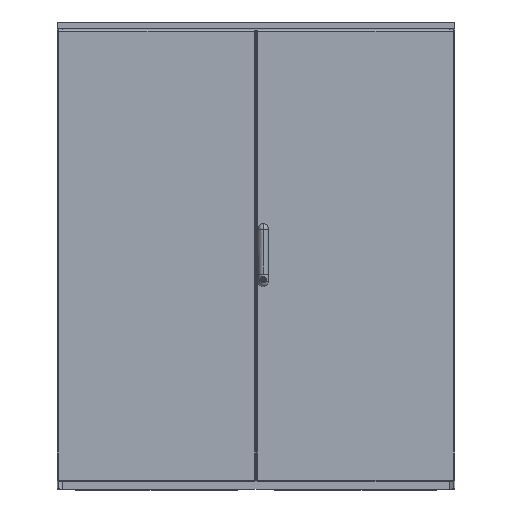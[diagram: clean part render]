
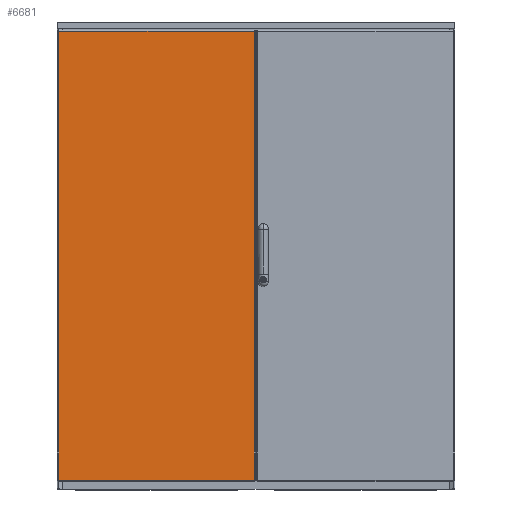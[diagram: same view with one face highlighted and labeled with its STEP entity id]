
A CAD part, front view. The second image highlights one B-rep face of the part: STEP entity #6681.
In plain terms, the highlighted planar face has unit normal (0, -1, 0) as drawn and (0, 0, 1) by its records, which use the part's own axes.
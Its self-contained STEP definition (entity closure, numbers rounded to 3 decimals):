
#2999 = DIRECTION ( 'NONE',  ( 0., -1., 0. ) ) ;
#3135 = CARTESIAN_POINT ( 'NONE',  ( 0., 3., 19. ) ) ;
#3524 = VECTOR ( 'NONE', #25561, 1000. ) ;
#6488 = CARTESIAN_POINT ( 'NONE',  ( 0., 1357., 19. ) ) ;
#6681 = ADVANCED_FACE ( 'NONE', ( #26393 ), #21090, .F. ) ;
#7212 = EDGE_CURVE ( 'NONE', #30786, #33779, #51875, .T. ) ;
#8841 = CARTESIAN_POINT ( 'NONE',  ( 2.001, 1357., 19. ) ) ;
#12522 = ORIENTED_EDGE ( 'NONE', *, *, #7212, .T. ) ;
#18381 = VERTEX_POINT ( 'NONE', #8841 ) ;
#21090 = PLANE ( 'NONE',  #61313 ) ;
#23427 = CARTESIAN_POINT ( 'NONE',  ( 2.001, 3., 19. ) ) ;
#25561 = DIRECTION ( 'NONE',  ( -1., 0., 0. ) ) ;
#25772 = DIRECTION ( 'NONE',  ( -1., 0., 0. ) ) ;
#26393 = FACE_OUTER_BOUND ( 'NONE', #36341, .T. ) ;
#26758 = LINE ( 'NONE', #46411, #38454 ) ;
#28168 = CARTESIAN_POINT ( 'NONE',  ( 592., 1360., 19. ) ) ;
#30786 = VERTEX_POINT ( 'NONE', #50942 ) ;
#31072 = CARTESIAN_POINT ( 'NONE',  ( 0., 1360., 19. ) ) ;
#31857 = LINE ( 'NONE', #3135, #61710 ) ;
#33303 = CARTESIAN_POINT ( 'NONE',  ( 592., 1357., 19. ) ) ;
#33779 = VERTEX_POINT ( 'NONE', #33303 ) ;
#36004 = ORIENTED_EDGE ( 'NONE', *, *, #51312, .T. ) ;
#36341 = EDGE_LOOP ( 'NONE', ( #58435, #36004, #49248, #12522 ) ) ;
#36356 = DIRECTION ( 'NONE',  ( 0., 0., -1. ) ) ;
#37421 = VECTOR ( 'NONE', #60335, 1000. ) ;
#38454 = VECTOR ( 'NONE', #2999, 1000. ) ;
#46411 = CARTESIAN_POINT ( 'NONE',  ( 2.001, 3., 19. ) ) ;
#49195 = EDGE_CURVE ( 'NONE', #33779, #18381, #49295, .T. ) ;
#49248 = ORIENTED_EDGE ( 'NONE', *, *, #54087, .T. ) ;
#49295 = LINE ( 'NONE', #6488, #3524 ) ;
#50909 = DIRECTION ( 'NONE',  ( 1., 0., 0. ) ) ;
#50942 = CARTESIAN_POINT ( 'NONE',  ( 592., 3., 19. ) ) ;
#51312 = EDGE_CURVE ( 'NONE', #18381, #54358, #26758, .T. ) ;
#51875 = LINE ( 'NONE', #28168, #37421 ) ;
#54087 = EDGE_CURVE ( 'NONE', #54358, #30786, #31857, .T. ) ;
#54358 = VERTEX_POINT ( 'NONE', #23427 ) ;
#58435 = ORIENTED_EDGE ( 'NONE', *, *, #49195, .T. ) ;
#60335 = DIRECTION ( 'NONE',  ( 0., 1., 0. ) ) ;
#61313 = AXIS2_PLACEMENT_3D ( 'NONE', #31072, #36356, #25772 ) ;
#61710 = VECTOR ( 'NONE', #50909, 1000. ) ;
